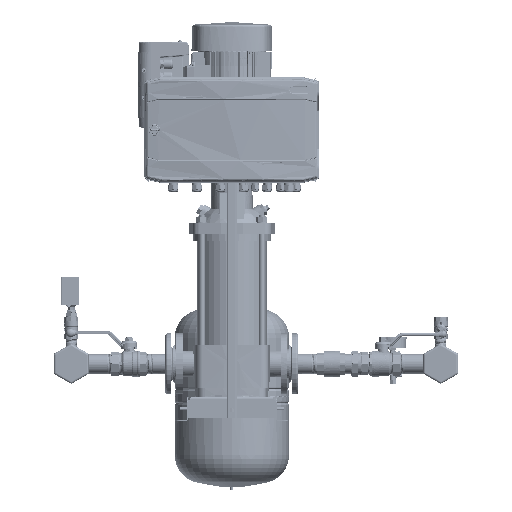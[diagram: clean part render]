
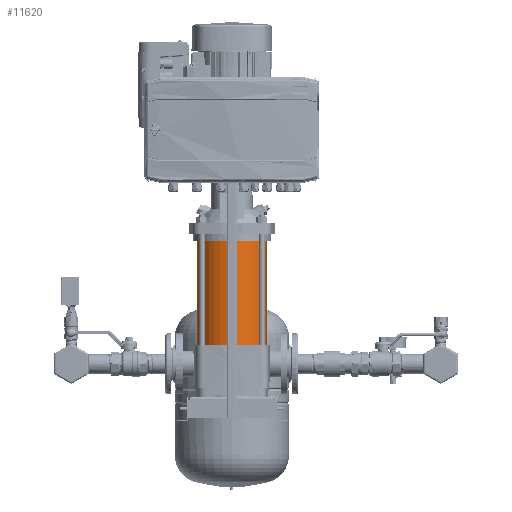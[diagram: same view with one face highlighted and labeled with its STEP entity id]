
A CAD part, left-side view. The second image highlights one B-rep face of the part: STEP entity #11620.
In plain terms, the highlighted cylindrical face has radius 85.35 mm (diameter 170.7 mm), a partial arc.
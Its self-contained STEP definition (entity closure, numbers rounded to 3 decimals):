
#11550=CARTESIAN_POINT('Axis2P3D Location',(284.,0.,0.)) ;
#11554=CARTESIAN_POINT('Vertex',(284.,-85.35,0.)) ;
#11556=CARTESIAN_POINT('Vertex',(284.,85.35,0.)) ;
#11577=CARTESIAN_POINT('Axis2P3D Location',(0.,0.,0.)) ;
#11582=CARTESIAN_POINT('Line Origine',(0.,-85.35,0.)) ;
#11586=CARTESIAN_POINT('Vertex',(0.,-85.35,0.)) ;
#11593=CARTESIAN_POINT('Vertex',(0.,85.35,0.)) ;
#11596=CARTESIAN_POINT('Line Origine',(0.,85.35,0.)) ;
#11609=CARTESIAN_POINT('Axis2P3D Location',(0.,0.,0.)) ;
#11584=VECTOR('Line Direction',#11583,1.) ;
#11598=VECTOR('Line Direction',#11597,1.) ;
#11551=DIRECTION('Axis2P3D Direction',(-1.,0.,0.)) ;
#11578=DIRECTION('Axis2P3D Direction',(1.,0.,0.)) ;
#11579=DIRECTION('Axis2P3D XDirection',(0.,-1.,0.)) ;
#11583=DIRECTION('Vector Direction',(1.,0.,0.)) ;
#11597=DIRECTION('Vector Direction',(1.,0.,0.)) ;
#11610=DIRECTION('Axis2P3D Direction',(1.,0.,0.)) ;
#11552=AXIS2_PLACEMENT_3D('Circle Axis2P3D',#11550,#11551,$) ;
#11580=AXIS2_PLACEMENT_3D('Cylinder Axis2P3D',#11577,#11578,#11579) ;
#11611=AXIS2_PLACEMENT_3D('Circle Axis2P3D',#11609,#11610,$) ;
#11585=LINE('Line',#11582,#11584) ;
#11599=LINE('Line',#11596,#11598) ;
#11553=CIRCLE('generated circle',#11552,85.35) ;
#11612=CIRCLE('generated circle',#11611,85.35) ;
#11581=CYLINDRICAL_SURFACE('generated cylinder',#11580,85.35) ;
#11558=EDGE_CURVE('',#11555,#11557,#11553,.T.) ;
#11588=EDGE_CURVE('',#11555,#11587,#11585,.F.) ;
#11600=EDGE_CURVE('',#11594,#11557,#11599,.T.) ;
#11613=EDGE_CURVE('',#11587,#11594,#11612,.F.) ;
#11615=ORIENTED_EDGE('',*,*,#11600,.F.) ;
#11616=ORIENTED_EDGE('',*,*,#11613,.F.) ;
#11617=ORIENTED_EDGE('',*,*,#11588,.F.) ;
#11618=ORIENTED_EDGE('',*,*,#11558,.T.) ;
#11614=EDGE_LOOP('',(#11615,#11616,#11617,#11618)) ;
#11555=VERTEX_POINT('',#11554) ;
#11557=VERTEX_POINT('',#11556) ;
#11587=VERTEX_POINT('',#11586) ;
#11594=VERTEX_POINT('',#11593) ;
#11620=ADVANCED_FACE('Solid1',(#11619),#11581,.T.) ;
#11619=FACE_OUTER_BOUND('',#11614,.T.) ;
